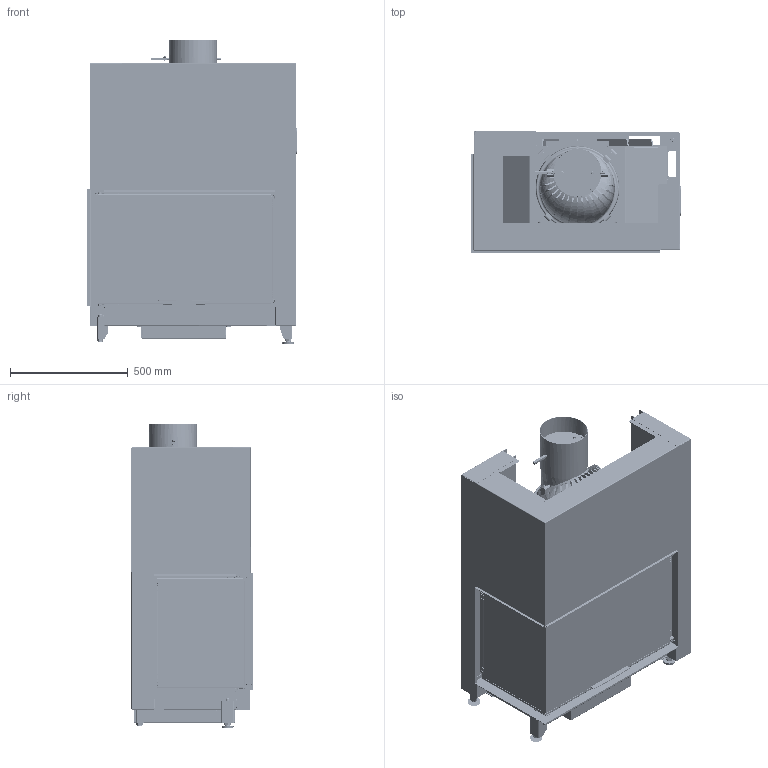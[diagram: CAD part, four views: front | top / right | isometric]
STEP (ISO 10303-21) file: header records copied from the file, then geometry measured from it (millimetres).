
FILE_DESCRIPTION(/* description */ (''),/* implementation_level */ '2;1');
FILE_NAME(/* name */ 'C:\ADSK_DM_WS\CAD_3D\03 Geraete\RII 50x80x42\Zeichnungen\RII_50x80x42_Links_ohne_Mantel_Oben_Gen2_2022-03182.stp',/* time_stamp */ '2022-08-03T08:12:51+02:00',/* author */ ('TIS'),/* organization */ (''),/* preprocessor_version */ 'ST-DEVELOPER v18.1',/* originating_system */ 'Autodesk Inventor 2022',/* authorisation */ '');
FILE_SCHEMA (('AUTOMOTIVE_DESIGN { 1 0 10303 214 3 1 1 }'));
Products named in the file (7): 2022-03182; 2022-03180; 2022-03178; 2022-03177; 2022-03175; 2022-03174; 2022-03173
Assembly tree (6 placements, depth 2):
  2022-03182
    2022-03180
    2022-03178
    2022-03177
    2022-03175
    2022-03174
    2022-03173
Bounding box: 888.9 x 516.52 x 1288.56 mm (x, y, z)
Volume: 47004500.4 mm3; surface area: 17051541.3 mm2
Topology: 20 solids, 31 shells, 9276 faces, 24504 edges, 15192 vertices
Faces by surface type: plane 5679, cylinder 3100, bspline 234, cone 182, torus 65, sphere 16
Full cylindrical faces by diameter (mm): 3 x2, 3.242 x6, 4.5 x4, 4.8 x10, 5 x1, 6 x4, 7.5 x1, 7.9 x1, 8 x8, 9 x4, 9.5 x10, 10 x7, 10.21 x2, 11.192 x4, 11.4 x6, 12 x2, 14.63 x1, 16 x16, 20 x4, 30 x4, 60 x2, 163 x1, 333 x1, 339 x1
Entity records: 303384 total; most frequent: CARTESIAN_POINT 61191, ORIENTED_EDGE 48970, DIRECTION 48716, EDGE_CURVE 24532, AXIS2_PLACEMENT_3D 16240, LINE 16236, VECTOR 16236, VERTEX_POINT 15194
